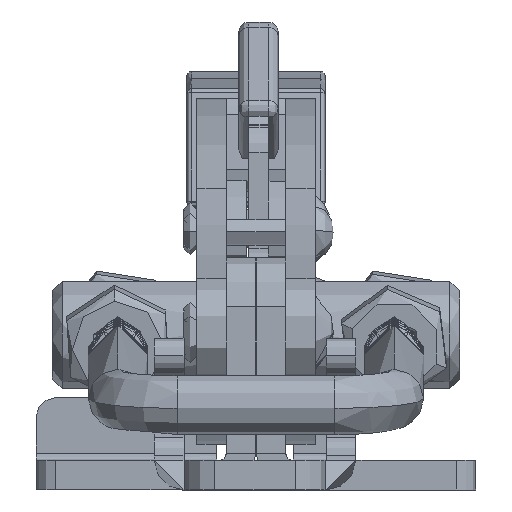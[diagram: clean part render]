
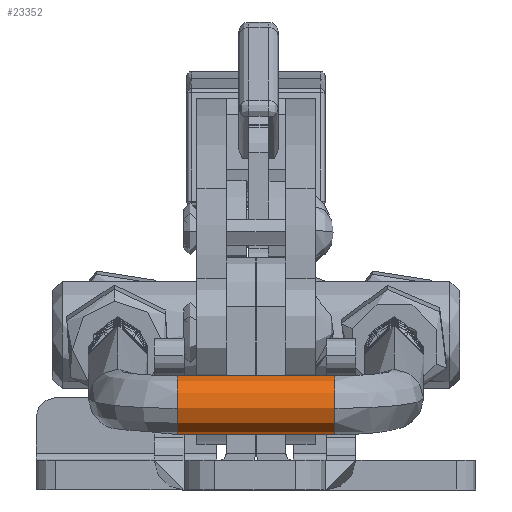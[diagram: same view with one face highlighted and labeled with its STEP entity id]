
A CAD part, left-side view. The second image highlights one B-rep face of the part: STEP entity #23352.
In plain terms, the highlighted cylindrical face has radius 3 mm (diameter 6 mm), a partial arc.
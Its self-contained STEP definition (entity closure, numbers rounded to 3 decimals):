
#1053 = CARTESIAN_POINT ( 'NONE',  ( 74.8, 8., -3. ) ) ;
#1374 = DIRECTION ( 'NONE',  ( 0., 0., -1. ) ) ;
#1805 = AXIS2_PLACEMENT_3D ( 'NONE', #42026, #22460, #2922 ) ;
#2201 = CIRCLE ( 'NONE', #1805, 3. ) ;
#2922 = DIRECTION ( 'NONE',  ( 0., 0., -1. ) ) ;
#3777 = CARTESIAN_POINT ( 'NONE',  ( 74.8, 8., 0. ) ) ;
#3920 = DIRECTION ( 'NONE',  ( 0., -1., 0. ) ) ;
#4164 = CARTESIAN_POINT ( 'NONE',  ( 74.8, 8., 3. ) ) ;
#4355 = VERTEX_POINT ( 'NONE', #24898 ) ;
#4923 = VERTEX_POINT ( 'NONE', #30703 ) ;
#5435 = CYLINDRICAL_SURFACE ( 'NONE', #37166, 3. ) ;
#6117 = EDGE_CURVE ( 'NONE', #29950, #34083, #20332, .T. ) ;
#6628 = ORIENTED_EDGE ( 'NONE', *, *, #33020, .T. ) ;
#9873 = CARTESIAN_POINT ( 'NONE',  ( 74.8, 8., 0. ) ) ;
#10350 = DIRECTION ( 'NONE',  ( 0., -1., 0. ) ) ;
#11279 = ORIENTED_EDGE ( 'NONE', *, *, #39566, .F. ) ;
#12066 = DIRECTION ( 'NONE',  ( 0., 1., 0. ) ) ;
#13136 = DIRECTION ( 'NONE',  ( 0., 0., -1. ) ) ;
#14821 = CIRCLE ( 'NONE', #21845, 3. ) ;
#15669 = EDGE_LOOP ( 'NONE', ( #11279, #41991, #19328, #6628, #40717, #33393 ) ) ;
#15933 = VECTOR ( 'NONE', #36680, 1000. ) ;
#17194 = EDGE_CURVE ( 'NONE', #4355, #29950, #24604, .T. ) ;
#17382 = EDGE_CURVE ( 'NONE', #4923, #22697, #21566, .T. ) ;
#19328 = ORIENTED_EDGE ( 'NONE', *, *, #6117, .T. ) ;
#20332 = CIRCLE ( 'NONE', #39203, 3. ) ;
#20928 = DIRECTION ( 'NONE',  ( 0., 1., 0. ) ) ;
#21566 = LINE ( 'NONE', #1053, #38922 ) ;
#21845 = AXIS2_PLACEMENT_3D ( 'NONE', #9873, #32736, #13136 ) ;
#22460 = DIRECTION ( 'NONE',  ( 0., 1., 0. ) ) ;
#22697 = VERTEX_POINT ( 'NONE', #30238 ) ;
#23352 = ADVANCED_FACE ( 'NONE', ( #31495 ), #5435, .T. ) ;
#23548 = CARTESIAN_POINT ( 'NONE',  ( 77.8, -8., 0. ) ) ;
#24604 = LINE ( 'NONE', #4164, #15933 ) ;
#24898 = CARTESIAN_POINT ( 'NONE',  ( 74.8, 8., 3. ) ) ;
#25902 = CARTESIAN_POINT ( 'NONE',  ( 77.8, 8., 0. ) ) ;
#26965 = CARTESIAN_POINT ( 'NONE',  ( 74.8, -8., 3. ) ) ;
#29950 = VERTEX_POINT ( 'NONE', #26965 ) ;
#30238 = CARTESIAN_POINT ( 'NONE',  ( 74.8, -8., -3. ) ) ;
#30703 = CARTESIAN_POINT ( 'NONE',  ( 74.8, 8., -3. ) ) ;
#31429 = CIRCLE ( 'NONE', #35964, 3. ) ;
#31495 = FACE_OUTER_BOUND ( 'NONE', #15669, .T. ) ;
#31656 = CARTESIAN_POINT ( 'NONE',  ( 74.8, -8., 0. ) ) ;
#32736 = DIRECTION ( 'NONE',  ( 0., 1., 0. ) ) ;
#33020 = EDGE_CURVE ( 'NONE', #34083, #22697, #31429, .T. ) ;
#33193 = DIRECTION ( 'NONE',  ( 0., 0., -1. ) ) ;
#33393 = ORIENTED_EDGE ( 'NONE', *, *, #34779, .F. ) ;
#34083 = VERTEX_POINT ( 'NONE', #23548 ) ;
#34779 = EDGE_CURVE ( 'NONE', #38365, #4923, #2201, .T. ) ;
#34905 = DIRECTION ( 'NONE',  ( 0., 0., -1. ) ) ;
#35964 = AXIS2_PLACEMENT_3D ( 'NONE', #31656, #12066, #34905 ) ;
#36680 = DIRECTION ( 'NONE',  ( 0., -1., 0. ) ) ;
#37166 = AXIS2_PLACEMENT_3D ( 'NONE', #3777, #10350, #33193 ) ;
#38365 = VERTEX_POINT ( 'NONE', #25902 ) ;
#38922 = VECTOR ( 'NONE', #3920, 1000. ) ;
#39203 = AXIS2_PLACEMENT_3D ( 'NONE', #40467, #20928, #1374 ) ;
#39566 = EDGE_CURVE ( 'NONE', #4355, #38365, #14821, .T. ) ;
#40467 = CARTESIAN_POINT ( 'NONE',  ( 74.8, -8., 0. ) ) ;
#40717 = ORIENTED_EDGE ( 'NONE', *, *, #17382, .F. ) ;
#41991 = ORIENTED_EDGE ( 'NONE', *, *, #17194, .T. ) ;
#42026 = CARTESIAN_POINT ( 'NONE',  ( 74.8, 8., 0. ) ) ;
